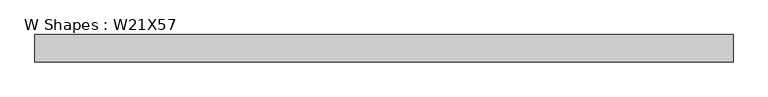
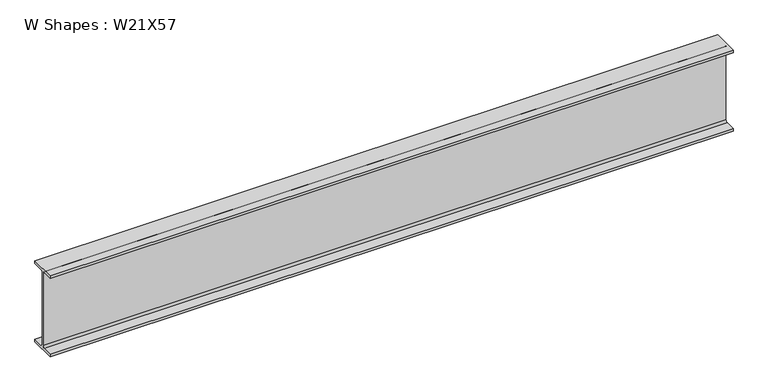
"""IFC4 building model written with IfcOpenShell, lengths in millimetres: beam geometry, W Shapes : W21X57."""

from ifc_helpers import new_model, si_unit, point, frame, frame_2d, origin, place, context, project, spatial, polyline, circle_curve, trimmed, segment, composite_curve, outline, extrude, source, transform, mapped, element, save


def w_shapes_w21x57_f6bd02bd(model_context):
    return source(origin(), model_context, "Body", "SweptSolid", [
        extrude(outline(composite_curve([segment(polyline([(83.312, -251.46), (83.312, -267.97), (-83.312, -267.97), (-83.312, -251.46), (-17.907, -251.46)]), True, "CONTINUOUS"), segment(trimmed(circle_curve(frame_2d((-17.907, -238.76)), 12.7), [point((-17.907, -251.46))], [point((-5.207, -238.76))], True, "CARTESIAN"), True, "CONTINUOUS"), segment(polyline([(-5.207, -238.76), (-5.207, 238.76)]), True, "CONTINUOUS"), segment(trimmed(circle_curve(frame_2d((-17.907, 238.76)), 12.7), [point((-5.207, 238.76))], [point((-17.907, 251.46))], True, "CARTESIAN"), True, "CONTINUOUS"), segment(polyline([(-17.907, 251.46), (-83.312, 251.46), (-83.312, 267.97), (83.312, 267.97), (83.312, 251.46), (17.907, 251.46)]), True, "CONTINUOUS"), segment(trimmed(circle_curve(frame_2d((17.907, 238.76)), 12.7), [point((17.907, 251.46))], [point((5.207, 238.76))], True, "CARTESIAN"), True, "CONTINUOUS"), segment(polyline([(5.207, 238.76), (5.207, -238.76)]), True, "CONTINUOUS"), segment(trimmed(circle_curve(frame_2d((17.907, -238.76)), 12.7), [point((5.207, -238.76))], [point((17.907, -251.46))], True, "CARTESIAN"), True, "CONTINUOUS"), segment(polyline([(17.907, -251.46), (83.312, -251.46)]), True, "CONTINUOUS")], self_intersect=False)), frame((-2174.339694, 0.0, 0.0), z_axis=(1.0, 0.0, 0.0), x_axis=(0.0, 1.0, 0.0)), (0.0, 0.0, 1.0), 4273.8568363),
    ])


if __name__ == "__main__":
    model = new_model("IFC4")
    model_context = context("Model", 3, world=origin())
    ifc_project = project(units=[si_unit("LENGTHUNIT", "METRE", prefix="MILLI")], contexts=[model_context])
    site = spatial("IfcSite", under=ifc_project)
    building = spatial("IfcBuilding", under=site)
    placement = place(None, origin())
    w_shapes_w21x57_shape = w_shapes_w21x57_f6bd02bd(model_context)
    element("IfcBeam", 1, ObjectType="W Shapes : W21X57", at=placement, inside=building, context=model_context, shape_type="MappedRepresentation", body=[
        mapped(w_shapes_w21x57_shape, transform((0.0, 0.0, 0.0), x_axis=(1.0, 0.0, 0.0), y_axis=(0.0, 1.0, 0.0), z_axis=(0.0, 0.0, 1.0))),
    ])
    save(model, "model.ifc")
